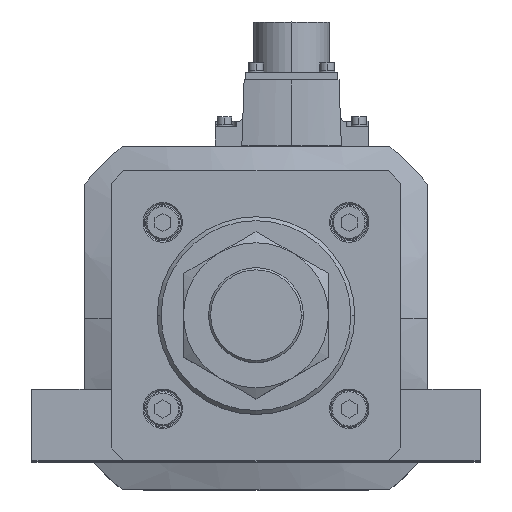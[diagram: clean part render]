
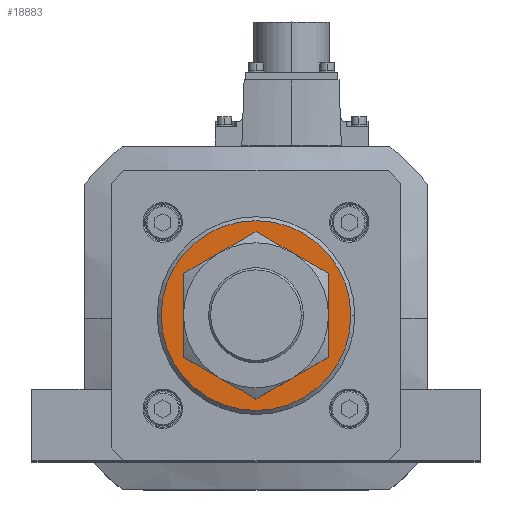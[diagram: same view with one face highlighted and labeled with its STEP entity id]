
A CAD part, top view. The second image highlights one B-rep face of the part: STEP entity #18883.
In plain terms, the highlighted planar face has unit normal (0, 0, 1).
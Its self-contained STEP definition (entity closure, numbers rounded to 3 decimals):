
#2435 = ORIENTED_EDGE ( 'NONE', *, *, #34892, .T. ) ;
#4608 = CARTESIAN_POINT ( 'NONE',  ( 0., 0., 296. ) ) ;
#6201 = CIRCLE ( 'NONE', #25801, 36. ) ;
#6561 = CIRCLE ( 'NONE', #29571, 36. ) ;
#7071 = FACE_OUTER_BOUND ( 'NONE', #19823, .T. ) ;
#7268 = CARTESIAN_POINT ( 'NONE',  ( 0., 0., 296. ) ) ;
#8019 = EDGE_CURVE ( 'NONE', #16289, #18063, #6201, .T. ) ;
#8960 = EDGE_CURVE ( 'NONE', #32143, #29292, #34441, .T. ) ;
#9590 = DIRECTION ( 'NONE',  ( 0., 0., 1. ) ) ;
#9876 = DIRECTION ( 'NONE',  ( 1., 0., 0. ) ) ;
#10592 = CARTESIAN_POINT ( 'NONE',  ( 36., 0., 296. ) ) ;
#11473 = CIRCLE ( 'NONE', #15094, 23. ) ;
#12689 = CARTESIAN_POINT ( 'NONE',  ( 0., 0., 296. ) ) ;
#12768 = DIRECTION ( 'NONE',  ( 1., 0., 0. ) ) ;
#12984 = DIRECTION ( 'NONE',  ( 0., 0., 1. ) ) ;
#13000 = ORIENTED_EDGE ( 'NONE', *, *, #8019, .T. ) ;
#13264 = CARTESIAN_POINT ( 'NONE',  ( 0., 0., 296. ) ) ;
#13901 = FACE_BOUND ( 'NONE', #30602, .T. ) ;
#14327 = AXIS2_PLACEMENT_3D ( 'NONE', #12689, #18449, #9876 ) ;
#15094 = AXIS2_PLACEMENT_3D ( 'NONE', #13264, #16580, #22347 ) ;
#15343 = ORIENTED_EDGE ( 'NONE', *, *, #8960, .T. ) ;
#15860 = CARTESIAN_POINT ( 'NONE',  ( -36., 0., 296. ) ) ;
#16289 = VERTEX_POINT ( 'NONE', #10592 ) ;
#16580 = DIRECTION ( 'NONE',  ( 0., 0., -1. ) ) ;
#17229 = CARTESIAN_POINT ( 'NONE',  ( -23., 0., 296. ) ) ;
#18063 = VERTEX_POINT ( 'NONE', #15860 ) ;
#18449 = DIRECTION ( 'NONE',  ( 0., 0., -1. ) ) ;
#18883 = ADVANCED_FACE ( 'NONE', ( #13901, #7071 ), #27093, .T. ) ;
#19602 = EDGE_CURVE ( 'NONE', #18063, #16289, #6561, .T. ) ;
#19823 = EDGE_LOOP ( 'NONE', ( #25939, #13000 ) ) ;
#19999 = AXIS2_PLACEMENT_3D ( 'NONE', #23906, #9590, #30040 ) ;
#22347 = DIRECTION ( 'NONE',  ( 1., 0., 0. ) ) ;
#22989 = CARTESIAN_POINT ( 'NONE',  ( 23., 0., 296. ) ) ;
#23906 = CARTESIAN_POINT ( 'NONE',  ( 0., 0., 296. ) ) ;
#25801 = AXIS2_PLACEMENT_3D ( 'NONE', #4608, #30260, #12768 ) ;
#25939 = ORIENTED_EDGE ( 'NONE', *, *, #19602, .T. ) ;
#27093 = PLANE ( 'NONE',  #19999 ) ;
#27676 = DIRECTION ( 'NONE',  ( 1., 0., 0. ) ) ;
#29292 = VERTEX_POINT ( 'NONE', #17229 ) ;
#29571 = AXIS2_PLACEMENT_3D ( 'NONE', #7268, #12984, #27676 ) ;
#30040 = DIRECTION ( 'NONE',  ( 1., 0., 0. ) ) ;
#30260 = DIRECTION ( 'NONE',  ( 0., 0., 1. ) ) ;
#30602 = EDGE_LOOP ( 'NONE', ( #15343, #2435 ) ) ;
#32143 = VERTEX_POINT ( 'NONE', #22989 ) ;
#34441 = CIRCLE ( 'NONE', #14327, 23. ) ;
#34892 = EDGE_CURVE ( 'NONE', #29292, #32143, #11473, .T. ) ;
